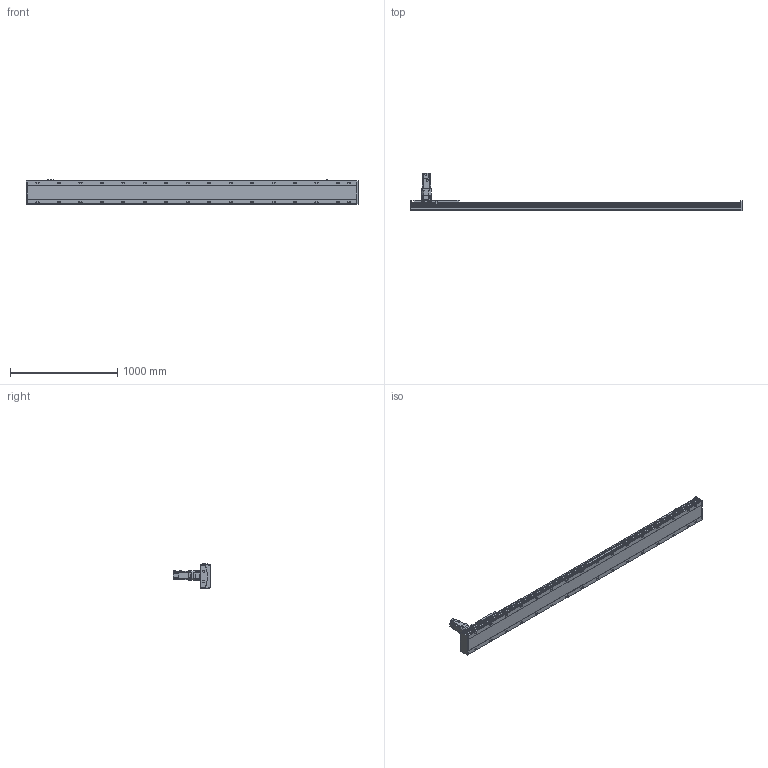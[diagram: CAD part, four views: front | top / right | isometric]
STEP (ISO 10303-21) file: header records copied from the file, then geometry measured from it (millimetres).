
FILE_DESCRIPTION(/* description */ ('STEP AP214'),/* implementation_level */ '2;1');
FILE_NAME(/* name */ 'SHS22A-L13-S2600-BC-T75-C1-N(0)',/* time_stamp */ '2022-06-15T02:27:39+02:00',/* author */ ('License CC BY-ND 4.0'),/* organization */ ('CADENAS'),/* preprocessor_version */ 'ST-DEVELOPER v18.102',/* originating_system */ 'PARTsolutions',/* authorisation */ ' ');
FILE_SCHEMA (('INTEGRATED_CNC_SCHEMA','AUTOMOTIVE_DESIGN {1 0 10303 214 3 1 1}'));
Length unit declared in the file: millimetre
Products named in the file (7): SHS22A-L13-S2600-BC-T75-C1-N(0); PSC140-sensor; SHS22A-S2600_body2; T75-p1; SHS22A-S2600_body3; SHS22A-S2600_slider; SHS22A-L13-S2600-BC-T75-C1(0)_body
Assembly tree (13 placements, depth 2):
  SHS22A-L13-S2600-BC-T75-C1-N(0)
    PSC140-sensor  x3
    SHS22A-S2600_body2  x6
    T75-p1
    SHS22A-S2600_body3
    SHS22A-S2600_slider
    SHS22A-L13-S2600-BC-T75-C1(0)_body
Bounding box: 3094 x 350.8 x 238.4 mm (x, y, z)
Volume: 34184673 mm3; surface area: 3543460.8 mm2
Topology: 13 solids, 13 shells, 1893 faces, 4863 edges, 3184 vertices
Faces by surface type: plane 1344, cylinder 443, cone 97, torus 9
Full cylindrical faces by diameter (mm): 2.8 x3, 4.2 x2, 4.6 x3, 4.917 x4, 5 x4, 5.6 x24, 6 x31, 6.6 x24, 6.647 x8, 6.8 x9, 7.75 x6, 8 x3, 8.376 x32, 8.5 x32, 10 x4, 11 x4, 12 x24, 14 x32, 22 x1, 24.1 x1, 28 x1, 28.2 x1, 28.8 x1, 48.542 x1, 68 x1, 70 x1, 78 x1, 80 x2
Entity records: 31595 total; most frequent: CARTESIAN_POINT 5669, DIRECTION 5351, ORIENTED_EDGE 4836, EDGE_CURVE 2418, AXIS2_PLACEMENT_3D 1888, VERTEX_POINT 1742, FACE_BOUND 1656, EDGE_LOOP 1655
